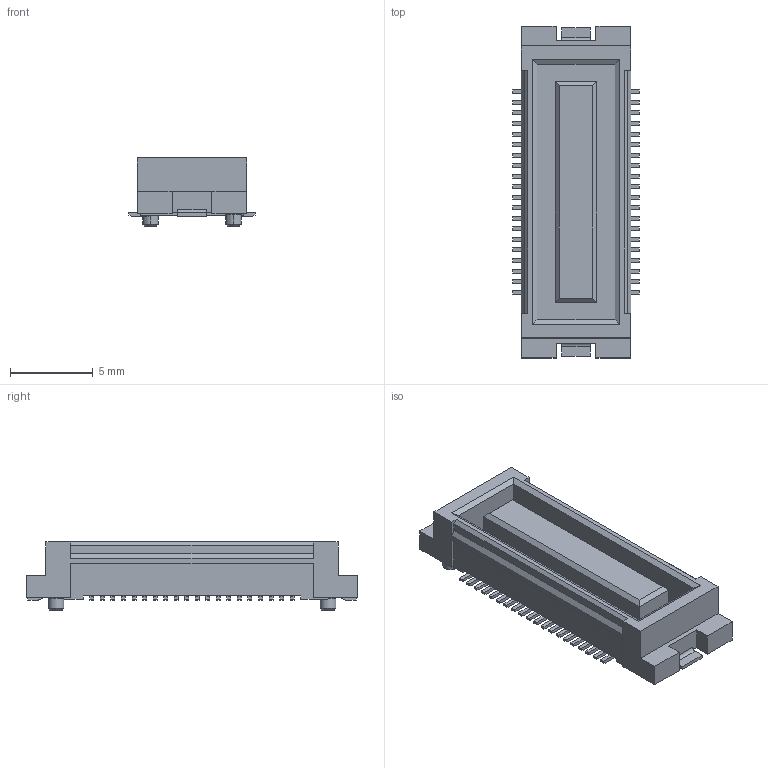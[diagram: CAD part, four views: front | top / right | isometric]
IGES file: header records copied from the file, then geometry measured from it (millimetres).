
Start section: SolidWorks IGES file using analytic representation for surfaces
Global section: file name: N:\Kamikawa_Hisako\2022_後期_KK活動\5689_OK\MOD\205689040000.IGS; native system: SolidWorks 2021; preprocessor: SolidWorks 2021; author: HISAKO.KAMIKAWA.FJ; date: 230302.141728; units: millimetre
Bounding box: 7.6 x 20 x 4.1 mm (x, y, z)
Surface area: 663.4 mm2 (no closed solid volume)
Topology: 0 solids, 0 shells, 462 faces, 2520 edges, 2520 vertices
Faces by surface type: bspline 462
